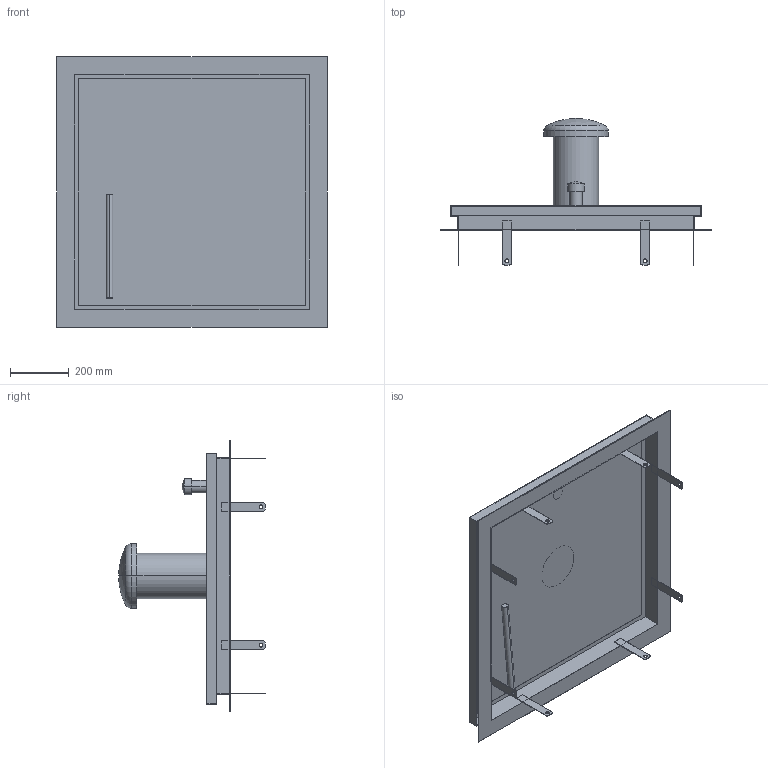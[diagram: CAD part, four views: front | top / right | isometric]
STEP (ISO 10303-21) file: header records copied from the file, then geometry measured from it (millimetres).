
FILE_DESCRIPTION((''),'2;1');
FILE_NAME('017_000105','2017-05-22T',('slc'),('HUBER SE'),'PRO/ENGINEER BY PARAMETRIC TECHNOLOGY CORPORATION, 2015280','PRO/ENGINEER BY PARAMETRIC TECHNOLOGY CORPORATION, 2015280','');
FILE_SCHEMA(('CONFIG_CONTROL_DESIGN'));
Length unit declared in the file: millimetre
Products named in the file (1): 017_000105
Bounding box: 920 x 499 x 920 mm (x, y, z)
Volume: 9106839.5 mm3; surface area: 2870425.7 mm2
Topology: 3 solids, 3 shells, 115 faces, 419 edges, 337 vertices
Faces by surface type: plane 75, cylinder 34, sphere 2, torus 2, bspline 2
Entity records: 4291 total; most frequent: CARTESIAN_POINT 910, DIRECTION 672, ORIENTED_EDGE 572, VECTOR 292, LINE 292, EDGE_CURVE 286, AXIS2_PLACEMENT_3D 190, VERTEX_POINT 184
